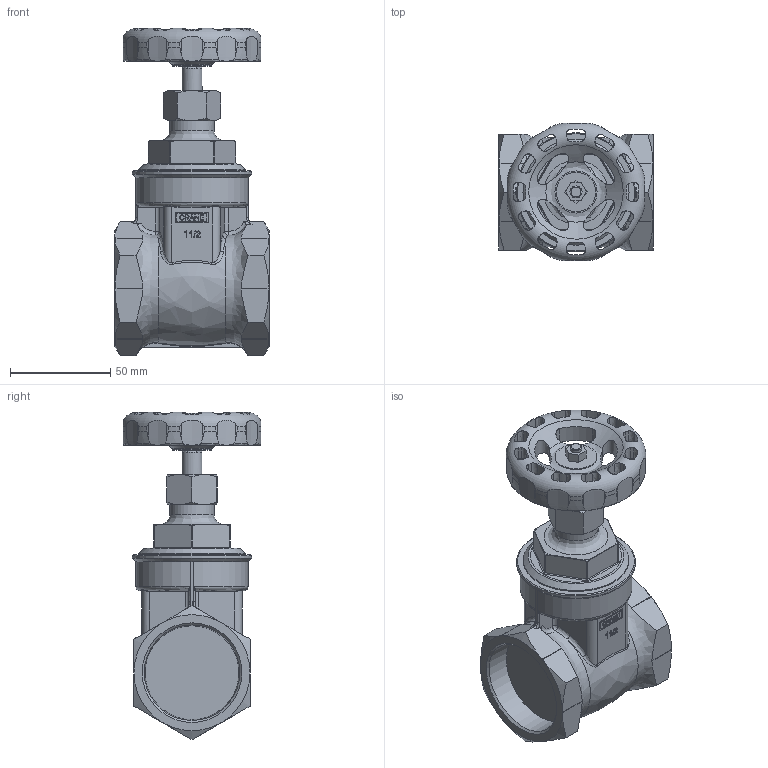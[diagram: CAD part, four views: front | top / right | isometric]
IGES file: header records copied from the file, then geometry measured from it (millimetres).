
Global section: file name: No Iges File Name specified; native system: AutoDesk Inventor R12.0; preprocessor: AutoDesk Inventor Iges Exporter R12.0; date: 20110311.101926; units: millimetre
Bounding box: 77 x 68.89 x 163.59 mm (x, y, z)
Volume: 286773 mm3; surface area: 51361.7 mm2
Topology: 1 solids, 1 shells, 795 faces, 2171 edges, 1383 vertices
Faces by surface type: plane 309, bspline 203, revolution 134, cylinder 105, cone 33, torus 11
Full cylindrical faces by diameter (mm): 6 x2, 10 x1, 19.8 x2, 21 x1, 22 x1, 53 x1, 59.5 x1
